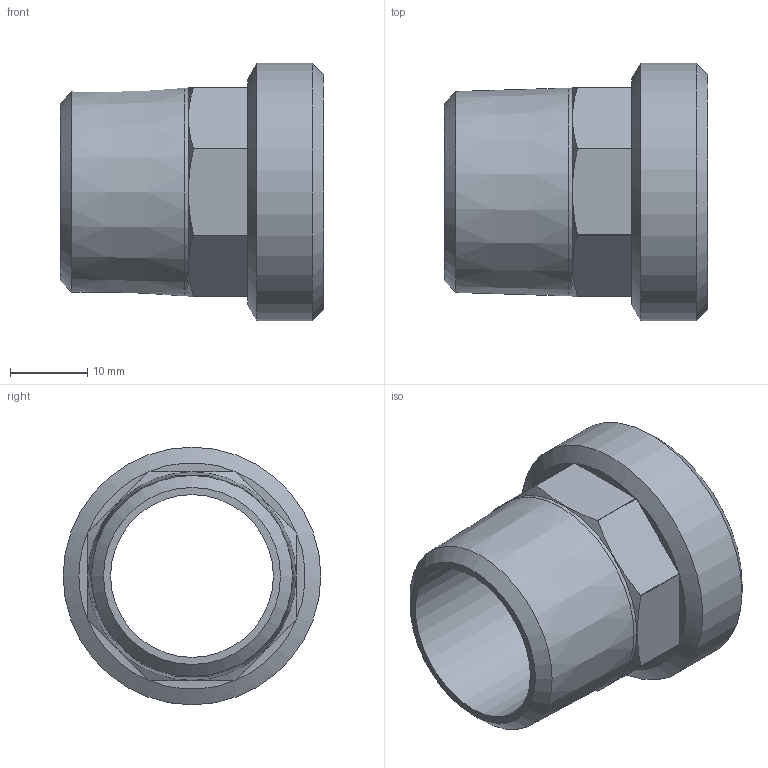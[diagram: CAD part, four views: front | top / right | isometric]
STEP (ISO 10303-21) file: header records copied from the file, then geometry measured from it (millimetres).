
FILE_DESCRIPTION((''),'2;1');
FILE_NAME('\\Lg50001\Groups\SANHA Legnica\Engineering\Public\Pajchrowski\projekty\8000 models\4376g\4376g STEP\14376_34-1(2).stp','2009-08-28T10:05:46',('pajchrowski'),(''),'Autodesk Inventor 2009','Autodesk Inventor 2009','');
FILE_SCHEMA(('AUTOMOTIVE_DESIGN { 1 0 10303 214 1 1 1 1 }'));
Length unit declared in the file: millimetre
Products named in the file (1): 14376_34-1(2)
Bounding box: 34 x 33.25 x 33.25 mm (x, y, z)
Volume: 10066.8 mm3; surface area: 6050.1 mm2
Topology: 1 solids, 1 shells, 34 faces, 75 edges, 43 vertices
Faces by surface type: plane 18, cylinder 11, cone 5
Full cylindrical faces by diameter (mm): 21 x1, 26.844 x1, 33.249 x1
Entity records: 888 total; most frequent: DIRECTION 160, CARTESIAN_POINT 157, ORIENTED_EDGE 130, AXIS2_PLACEMENT_3D 68, EDGE_CURVE 65, EDGE_LOOP 44, VERTEX_POINT 41, FACE_OUTER_BOUND 34
